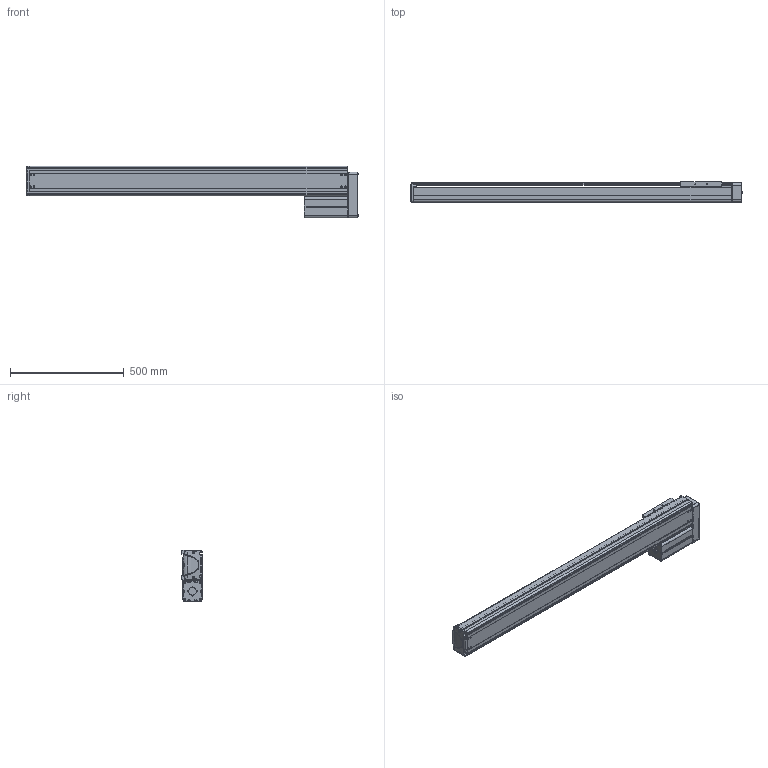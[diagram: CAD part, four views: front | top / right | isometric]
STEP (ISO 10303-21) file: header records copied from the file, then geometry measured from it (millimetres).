
FILE_DESCRIPTION((''),'2;1');
FILE_NAME('BE30E-UL-L_B-B5_IGS_PRT','2017-06-17T',(' '),(''),'PRO/ENGINEER BY PARAMETRIC TECHNOLOGY CORPORATION, 2015030','PRO/ENGINEER BY PARAMETRIC TECHNOLOGY CORPORATION, 2015030','');
FILE_SCHEMA(('CONFIG_CONTROL_DESIGN'));
Length unit declared in the file: millimetre
Products named in the file (1): BE30E-UL-L_B-B5_IGS_PRT
Bounding box: 1461.9 x 89.8 x 227 mm (x, y, z)
Volume: 4802492.7 mm3; surface area: 2015761 mm2
Topology: 2 solids, 139 shells, 2115 faces, 5725 edges, 3727 vertices
Faces by surface type: plane 1010, cylinder 915, cone 101, torus 37, bspline 28, sphere 24
Entity records: 68823 total; most frequent: CARTESIAN_POINT 14672, DIRECTION 11443, ORIENTED_EDGE 10852, EDGE_CURVE 5687, AXIS2_PLACEMENT_3D 4062, VERTEX_POINT 3727, VECTOR 3319, LINE 3319
